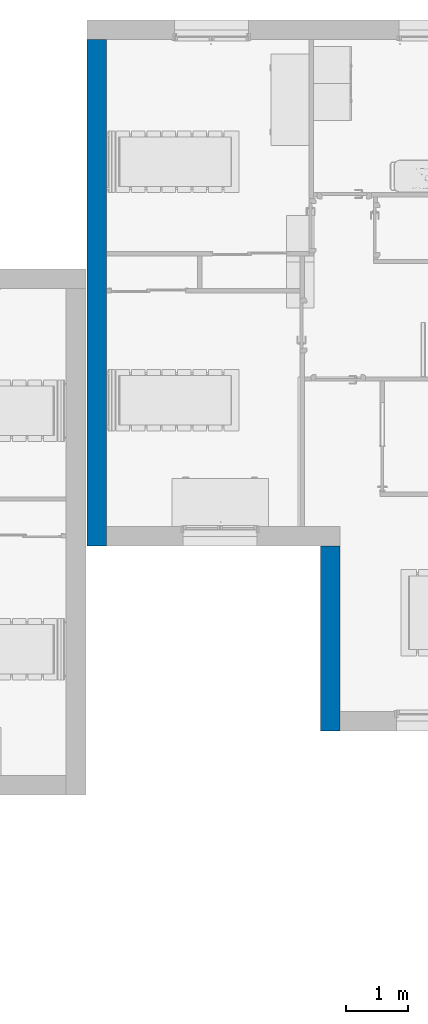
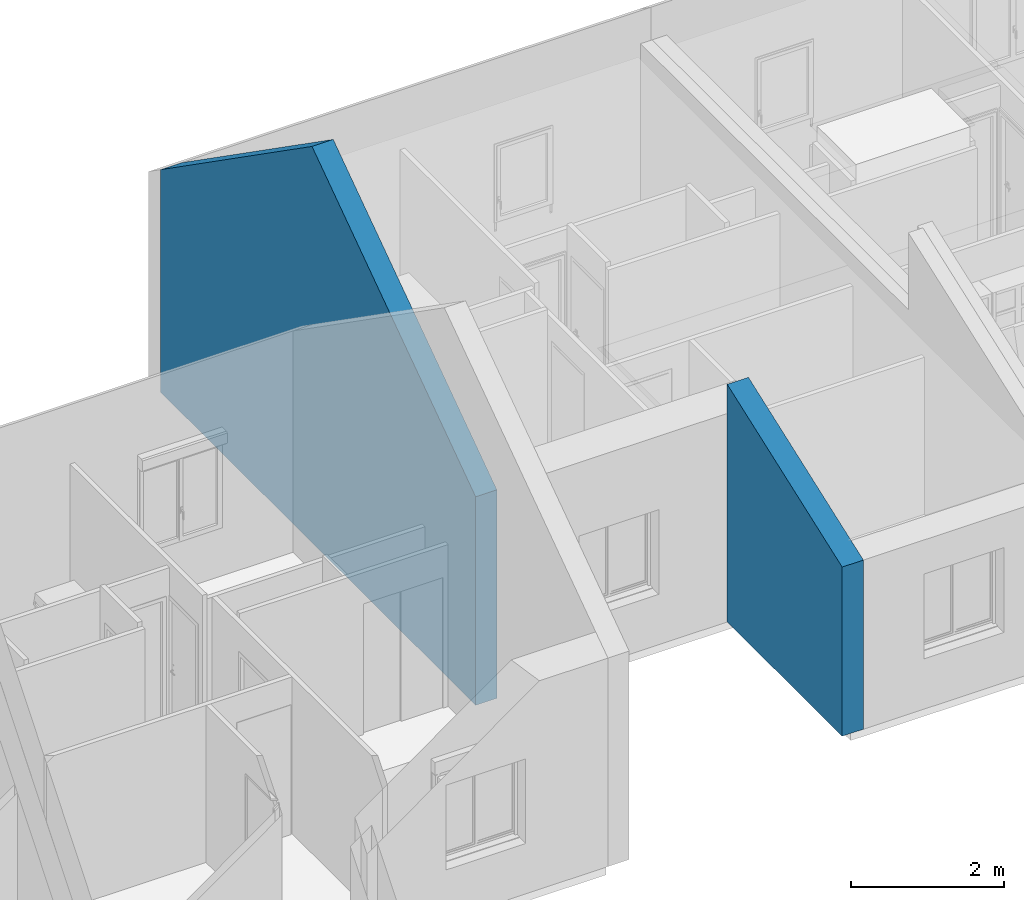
# One storey, part 23 of 61: 2 walls.
"""IFC2X3 building model written with IfcOpenShell, lengths in metres."""

import ifcopenshell
import ifcopenshell.guid

model = None  # the IFC model being written
_history = None  # IfcOwnerHistory: only IFC2X3 demands one
_inside = {}  # id of a spatial element -> (the spatial element, [elements in it])
_under = {}  # id of a project, library or spatial element -> (it, [spatial elements below it])
_declared = {}  # id of a project -> (the project, [libraries it declares])
_typed = {}  # id of a type object -> (the type object, [elements of that type])
_made_of = {}  # id of a material, layer set ... -> (it, [elements and type objects made of it])


def new_model(schema):
    """Start an empty IFC model of exactly this schema.

    Asked for "IFC4X3", IfcOpenShell would pick the latest addendum, in which some entities
    have other attributes; the version numbers below select the first issue.
    IFC2X3 requires an IfcOwnerHistory on every rooted entity: one is made here for all.
    """
    global model, _history
    if schema == "IFC4X3":
        model = ifcopenshell.file(schema_version=(4, 3, 0, 0))
    else:
        model = ifcopenshell.file(schema=schema)
    _inside.clear()
    _under.clear()
    _declared.clear()
    _typed.clear()
    _made_of.clear()
    _history = None
    if model.schema == "IFC2X3":
        org = make("IfcOrganization", Name="unknown")
        user = make(
            "IfcPersonAndOrganization",
            ThePerson=make("IfcPerson", FamilyName="unknown"),
            TheOrganization=org,
        )
        app = make(
            "IfcApplication",
            ApplicationDeveloper=org,
            Version="unknown",
            ApplicationFullName="unknown",
            ApplicationIdentifier="unknown",
        )
        _history = make(
            "IfcOwnerHistory",
            OwningUser=user,
            OwningApplication=app,
            ChangeAction="ADDED",
            CreationDate=0,
        )
    return model


def make(cls, **values):
    """One entity of the class cls with the attributes given. An attribute that is None is left unset."""
    return model.create_entity(
        cls, **{name: value for name, value in values.items() if value is not None}
    )


def entity(cls, *values):
    """Any entity or typed value of the class cls, its attributes in the order of the schema. None: left unset."""
    e = model.create_entity(cls)
    for i, value in enumerate(values):
        if value is not None:
            e[i] = value
    return e


def rooted(cls, **values):
    """An entity with a GlobalId (a new one), such as an element, a storey or a relation."""
    return make(cls, GlobalId=ifcopenshell.guid.new(), OwnerHistory=_history, **values)


def si_unit(unit_type, name, prefix=None):
    """IfcSIUnit, for example si_unit("LENGTHUNIT", "METRE", prefix="MILLI")."""
    return make("IfcSIUnit", UnitType=unit_type, Prefix=prefix, Name=name)


def converted_unit(unit_type, name, factor, base, dimensions=None, offset=None):
    """IfcConversionBasedUnit, such as the inch: factor (a typed value) times the base unit."""
    return make(
        "IfcConversionBasedUnit"
        if offset is None
        else "IfcConversionBasedUnitWithOffset",
        ConversionOffset=offset,
        Dimensions=None
        if dimensions is None
        else entity("IfcDimensionalExponents", *dimensions),
        UnitType=unit_type,
        Name=name,
        ConversionFactor=make(
            "IfcMeasureWithUnit", ValueComponent=factor, UnitComponent=base
        ),
    )


def derived_unit(unit_type, elements):
    """IfcDerivedUnit: a product of units, each with its exponent."""
    return make(
        "IfcDerivedUnit",
        Elements=[
            make("IfcDerivedUnitElement", Unit=unit, Exponent=power)
            for unit, power in elements
        ],
        UnitType=unit_type,
    )


def assignment(units):
    """IfcUnitAssignment: the units of a project."""
    return None if units is None else make("IfcUnitAssignment", Units=units)


def point(xyz):
    """IfcCartesianPoint."""
    return None if xyz is None else make("IfcCartesianPoint", Coordinates=xyz)


def direction(xyz):
    """IfcDirection."""
    return None if xyz is None else make("IfcDirection", DirectionRatios=xyz)


def frame(location, z_axis=None, x_axis=None):
    """IfcAxis2Placement3D, a coordinate frame: its origin and axes. An axis left out is left unset."""
    return make(
        "IfcAxis2Placement3D",
        Location=point(location),
        Axis=direction(z_axis),
        RefDirection=direction(x_axis),
    )


def frame_2d(location, x_axis=None):
    """IfcAxis2Placement2D, a coordinate frame in the plane: its origin and x axis."""
    return make(
        "IfcAxis2Placement2D", Location=point(location), RefDirection=direction(x_axis)
    )


def origin():
    """The frame at (0, 0, 0) with its axes left unset."""
    return frame((0.0, 0.0, 0.0))


def place(relative_to, where):
    """IfcLocalPlacement: puts the frame where relative to a parent placement (None: the world)."""
    return make(
        "IfcLocalPlacement", PlacementRelTo=relative_to, RelativePlacement=where
    )


def context(
    kind, dimensions, precision=None, world=None, true_north=None, identifier=None
):
    """IfcGeometricRepresentationContext, for example the 3D "Model" context."""
    return make(
        "IfcGeometricRepresentationContext",
        ContextIdentifier=identifier,
        ContextType=kind,
        CoordinateSpaceDimension=dimensions,
        Precision=precision,
        WorldCoordinateSystem=world,
        TrueNorth=true_north,
    )


def subcontext(parent, identifier, kind, view, scale=None):
    """IfcGeometricRepresentationSubContext, for example "Body" below "Model"."""
    return make(
        "IfcGeometricRepresentationSubContext",
        ContextIdentifier=identifier,
        ContextType=kind,
        ParentContext=parent,
        TargetScale=scale,
        TargetView=view,
    )


def project(units=None, contexts=None):
    """IfcProject with its units and contexts."""
    return rooted(
        "IfcProject",
        Name="project",
        RepresentationContexts=contexts,
        UnitsInContext=assignment(units),
    )


def spatial(cls, under=None, at=None, **own):
    """A site, building, storey or space (cls), placed at a placement, below another one or the project."""
    s = rooted(cls, ObjectPlacement=at, **own)
    if under is not None:
        _under.setdefault(under.id(), (under, []))[1].append(s)
    return s


def polyline(points):
    """IfcPolyline through the points."""
    return make("IfcPolyline", Points=[point(p) for p in points])


def profile(cls, at=None, kind="AREA", **sizes):
    """A parametric profile (cls). Its sizes go by their IFC names, for example OverallWidth=200.0."""
    return make(cls, ProfileType=kind, Position=at, **sizes)


def rectangle(**sizes):
    """IfcRectangleProfileDef."""
    return profile("IfcRectangleProfileDef", **sizes)


def extrude(swept, where, along, depth):
    """IfcExtrudedAreaSolid: the profile swept, set in the frame where, extruded along a direction by depth."""
    return make(
        "IfcExtrudedAreaSolid",
        SweptArea=swept,
        Position=where,
        ExtrudedDirection=direction(along),
        Depth=depth,
    )


def clip(a, b, op="DIFFERENCE"):
    """IfcBooleanClippingResult: the solid a cut by the half space b."""
    return make(
        "IfcBooleanClippingResult", Operator=op, FirstOperand=a, SecondOperand=b
    )


def bounded_halfspace(plane, agree, where, boundary):
    """IfcPolygonalBoundedHalfSpace: a half space limited to a polygon's prism."""
    return make(
        "IfcPolygonalBoundedHalfSpace",
        BaseSurface=make("IfcPlane", Position=plane),
        AgreementFlag=agree,
        Position=where,
        PolygonalBoundary=boundary,
    )


def shape(context_of_items, identifier, shape_type, items):
    """IfcShapeRepresentation: the items that make up one representation, for example the "Body"."""
    return make(
        "IfcShapeRepresentation",
        ContextOfItems=context_of_items,
        RepresentationIdentifier=identifier,
        RepresentationType=shape_type,
        Items=items,
    )


def material(Name=None, Category=None):
    """IfcMaterial."""
    return make("IfcMaterial", Name=Name, Category=Category)


def layer(
    of_material, thickness, ventilated=None, Name=None, Category=None, Priority=None
):
    """IfcMaterialLayer: one layer of a wall or slab, of a material (None: an air gap)."""
    return make(
        "IfcMaterialLayer",
        Material=of_material,
        LayerThickness=thickness,
        IsVentilated=ventilated,
        Name=Name,
        Category=Category,
        Priority=Priority,
    )


def layer_set(layers, Name=None):
    """IfcMaterialLayerSet."""
    return make("IfcMaterialLayerSet", MaterialLayers=layers, LayerSetName=Name)


def layer_usage(for_layer_set, set_direction, sense, offset, extent=None):
    """IfcMaterialLayerSetUsage: how a layer set lies in its element."""
    return make(
        "IfcMaterialLayerSetUsage",
        ForLayerSet=for_layer_set,
        LayerSetDirection=set_direction,
        DirectionSense=sense,
        OffsetFromReferenceLine=offset,
        ReferenceExtent=extent,
    )


def made_of(thing, what):
    """Note that an element or type object is made of a material, layer set ...; save() writes the relation."""
    if what is not None:
        _made_of.setdefault(what.id(), (what, []))[1].append(thing)
    return thing


def type_object(cls, material=None, **own):
    """A type object (cls), such as IfcWallType, which elements share."""
    return made_of(rooted(cls, **own), material)


def element(
    cls,
    number,
    at=None,
    inside=None,
    cuts=None,
    type_object=None,
    material=None,
    context=None,
    identifier="Body",
    shape_type=None,
    held_by="IfcProductDefinitionShape",
    body=None,
    shapes=None,
    **own,
):
    """One element of the class cls, such as IfcWall. Its Tag is "e" and its number.

    at: its placement. inside: the storey or other place that contains it. cuts: it is an
    opening in that element (IfcRelVoidsElement). A single representation is given by context,
    identifier, shape_type and body (its items); several are given by shapes. held_by: the class
    of the entity that holds the representations. save() writes the other relations.
    """
    e = rooted(cls, Tag="e%d" % number, ObjectPlacement=at, **own)
    if body is not None:
        shapes = [shape(context, identifier, shape_type, body)]
    if shapes is not None:
        e.Representation = make(held_by, Representations=shapes)
    if inside is not None:
        _inside.setdefault(inside.id(), (inside, []))[1].append(e)
    if cuts is not None:
        rooted(
            "IfcRelVoidsElement", RelatingBuildingElement=cuts, RelatedOpeningElement=e
        )
    if type_object is not None:
        _typed.setdefault(type_object.id(), (type_object, []))[1].append(e)
    return made_of(e, material)


def aggregate(whole, parts):
    """IfcRelAggregates: a whole, such as a stair, and the parts it consists of."""
    return rooted("IfcRelAggregates", RelatingObject=whole, RelatedObjects=parts)


def save(model, path):
    """Write the relations noted so far, then the file.

    IfcRelAggregates (storeys below a building ...), IfcRelContainedInSpatialStructure (elements
    in a storey), IfcRelDefinesByType, IfcRelAssociatesMaterial and IfcRelDeclares: one each for
    every whole, place, type object, material and project.
    """
    for whole, parts in _under.values():
        aggregate(whole, parts)
    for where, things in _inside.values():
        rooted(
            "IfcRelContainedInSpatialStructure",
            RelatedElements=things,
            RelatingStructure=where,
        )
    for kind, things in _typed.values():
        rooted("IfcRelDefinesByType", RelatedObjects=things, RelatingType=kind)
    for what, things in _made_of.values():
        rooted("IfcRelAssociatesMaterial", RelatedObjects=things, RelatingMaterial=what)
    for by, libraries in _declared.values():
        rooted("IfcRelDeclares", RelatingContext=by, RelatedDefinitions=libraries)
    model.write(path)


model = new_model("IFC2X3")

# Units and contexts
model_context = context("Model", 3, precision=1e-05, world=origin(), true_north=direction((6.12303176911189e-17, 1.0)))
body_context = subcontext(model_context, "Body", "Model", "MODEL_VIEW")
ifc_project = project(units=[si_unit("LENGTHUNIT", "METRE"), si_unit("AREAUNIT", "SQUARE_METRE"), si_unit("VOLUMEUNIT", "CUBIC_METRE"), converted_unit("PLANEANGLEUNIT", "DEGREE", entity("IfcRatioMeasure", 0.0174532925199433), si_unit("PLANEANGLEUNIT", "RADIAN"), dimensions=[0, 0, 0, 0, 0, 0, 0]), si_unit("MASSUNIT", "GRAM", prefix="KILO"), derived_unit("MASSDENSITYUNIT", [(si_unit("MASSUNIT", "GRAM", prefix="KILO"), 1), (si_unit("LENGTHUNIT", "METRE"), -3)]), si_unit("TIMEUNIT", "SECOND"), si_unit("FREQUENCYUNIT", "HERTZ"), si_unit("THERMODYNAMICTEMPERATUREUNIT", "DEGREE_CELSIUS"), derived_unit("THERMALTRANSMITTANCEUNIT", [(si_unit("MASSUNIT", "GRAM", prefix="KILO"), 1), (si_unit("THERMODYNAMICTEMPERATUREUNIT", "KELVIN"), -1), (si_unit("TIMEUNIT", "SECOND"), -3)]), derived_unit("VOLUMETRICFLOWRATEUNIT", [(si_unit("LENGTHUNIT", "METRE"), 3), (si_unit("TIMEUNIT", "SECOND"), -1)]), si_unit("ELECTRICCURRENTUNIT", "AMPERE"), si_unit("ELECTRICVOLTAGEUNIT", "VOLT"), si_unit("POWERUNIT", "WATT"), si_unit("FORCEUNIT", "NEWTON", prefix="KILO"), si_unit("ILLUMINANCEUNIT", "LUX"), si_unit("LUMINOUSFLUXUNIT", "LUMEN"), si_unit("LUMINOUSINTENSITYUNIT", "CANDELA"), derived_unit("USERDEFINED", [(si_unit("MASSUNIT", "GRAM", prefix="KILO"), -1), (si_unit("LENGTHUNIT", "METRE"), -2), (si_unit("TIMEUNIT", "SECOND"), 3), (si_unit("LUMINOUSFLUXUNIT", "LUMEN"), 1)]), derived_unit("LINEARVELOCITYUNIT", [(si_unit("LENGTHUNIT", "METRE"), 1), (si_unit("TIMEUNIT", "SECOND"), -1)]), si_unit("PRESSUREUNIT", "PASCAL"), derived_unit("USERDEFINED", [(si_unit("LENGTHUNIT", "METRE"), -2), (si_unit("MASSUNIT", "GRAM", prefix="KILO"), 1), (si_unit("TIMEUNIT", "SECOND"), -2)])], contexts=[model_context])

# Site, building, storey
site_placement = place(None, origin())
site = spatial("IfcSite", under=ifc_project, at=site_placement, Name="Surface", CompositionType="ELEMENT")
building_placement = place(site_placement, origin())
building = spatial("IfcBuilding", under=site, at=building_placement, CompositionType="ELEMENT")
storey_placement = place(building_placement, frame((0.0, 0.0, 2.82)))
storey = spatial("IfcBuildingStorey", under=building, at=storey_placement, Name="ETAGE", CompositionType="ELEMENT", Elevation=2.82)

# Walls
ifc_material_1 = material(Name="Enduit blanc cassé2")
ifc_layer_1 = layer(ifc_material_1, 0.02)
ifc_material_2 = material(Name="Parpaing")
ifc_layer_2 = layer(ifc_material_2, 0.2)
ifc_material_3 = material(Name="Isolant")
ifc_layer_3 = layer(ifc_material_3, 0.1)
ifc_layer_set_1 = layer_set([ifc_layer_1, ifc_layer_2, ifc_layer_3], Name="Mur de base:Ext. Parpaing 20 + Isolant 10 enduit blanc cassé")
ifc_layer_usage_1 = layer_usage(ifc_layer_set_1, "AXIS2", "POSITIVE", -0.16)
wall_type_1 = type_object("IfcWallType", Name="Mur de base:Ext. Parpaing 20 + Isolant 10 enduit blanc cassé", PredefinedType="STANDARD", material=ifc_layer_set_1)
wall_1_placement = place(storey_placement, frame((76.462756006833, 92.1475239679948, 0.0), z_axis=(0.0, 0.0, 1.0), x_axis=(0.0, -1.0, 0.0)))
element("IfcWallStandardCase", 1, at=wall_1_placement, inside=storey, type_object=wall_type_1, material=ifc_layer_usage_1, Name="Mur de base:Ext. Parpaing 20 + Isolant 10 enduit blanc cassé", ObjectType="Mur de base:Ext. Parpaing 20 + Isolant 10 enduit blanc cassé", context=body_context, shape_type="Clipping", body=[
    clip(clip(extrude(rectangle(XDim=8.22, YDim=0.319999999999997, at=frame_2d((4.11, -5.55111512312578e-16), x_axis=(-1.0, 0.0))), origin(), (0.0, 0.0, 1.0), 6.30988618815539), bounded_halfspace(frame((0.0, -0.159999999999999, 3.5440664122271), z_axis=(-0.573576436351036, 0.0, 0.819152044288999), x_axis=(0.0, -1.0, 0.0)), False, frame((0.0, -0.159999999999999, 3.5440664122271)), polyline([(0.0, 0.0), (3.94999999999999, 0.0), (3.94999999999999, 0.319999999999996), (0.0, 0.319999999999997), (0.0, 0.0)]))), bounded_halfspace(frame((3.94999999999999, -0.16, 6.30988618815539), z_axis=(0.573576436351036, 0.0, 0.819152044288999), x_axis=(0.0, 1.0, 0.0)), False, frame((3.94999999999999, -0.16, 6.30988618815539)), polyline([(0.0, 0.0), (4.27000000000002, 0.0), (4.27000000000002, 0.319999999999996), (3.95000000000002, 0.319999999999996), (0.0, 0.319999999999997), (0.0, 0.0)]))),
])
ifc_material_4 = material(Name="Enduit  gris")
ifc_layer_4 = layer(ifc_material_4, 0.02)
ifc_layer_5 = layer(ifc_material_2, 0.2)
ifc_layer_6 = layer(ifc_material_3, 0.1)
ifc_layer_set_2 = layer_set([ifc_layer_4, ifc_layer_5, ifc_layer_6], Name="Mur de base:Ext. Parpaing 20 + Isolant 10 enduit gris")
ifc_layer_usage_2 = layer_usage(ifc_layer_set_2, "AXIS2", "POSITIVE", -0.16)
wall_type_2 = type_object("IfcWallType", Name="Mur de base:Ext. Parpaing 20 + Isolant 10 enduit gris", PredefinedType="STANDARD", material=ifc_layer_set_2)
wall_2_placement = place(storey_placement, frame((80.2510189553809, 83.9275239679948, 0.0), z_axis=(0.0, 0.0, 1.0), x_axis=(0.0, -1.0, 0.0)))
element("IfcWallStandardCase", 2, at=wall_2_placement, inside=storey, type_object=wall_type_2, material=ifc_layer_usage_2, Name="Mur de base:Ext. Parpaing 20 + Isolant 10 enduit gris", ObjectType="Mur de base:Ext. Parpaing 20 + Isolant 10 enduit gris", context=body_context, shape_type="Clipping", body=[
    clip(extrude(rectangle(XDim=3.00000000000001, YDim=0.319999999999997, at=frame_2d((1.50000000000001, 0.0), x_axis=(-1.0, 0.0))), origin(), (0.0, 0.0, 1.0), 3.78536353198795), bounded_halfspace(frame((0.0, -0.159999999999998, 3.78536353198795), z_axis=(-0.342020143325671, 0.0, -0.939692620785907), x_axis=(0.0, -1.0, 0.0)), True, frame((0.0, -0.159999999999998, 3.78536353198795)), polyline([(0.0, 0.0), (3.0, 0.0), (3.0, 0.319999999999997), (2.68000000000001, 0.319999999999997), (0.0, 0.319999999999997), (0.0, 0.0)]))),
])

save(model, "model.ifc")
